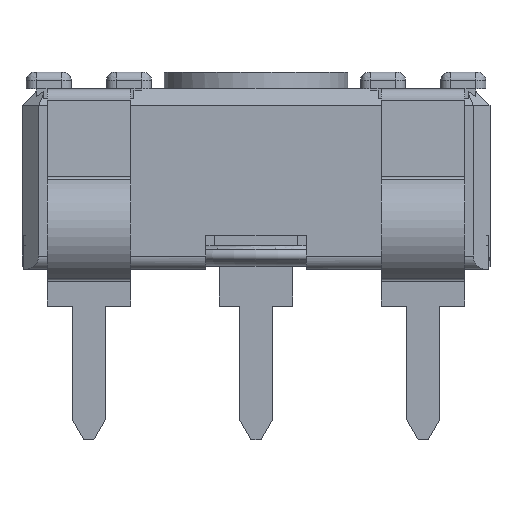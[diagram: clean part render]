
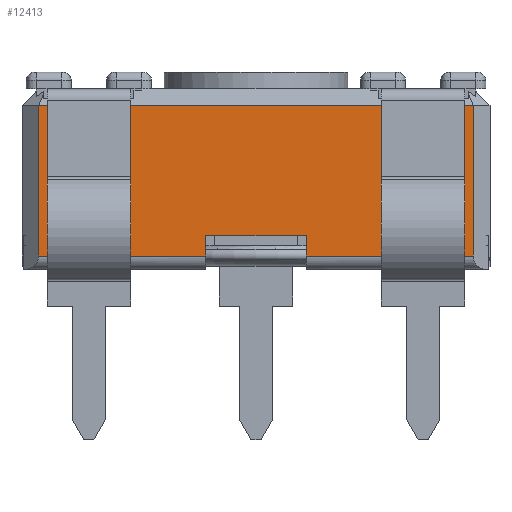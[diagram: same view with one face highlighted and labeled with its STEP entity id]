
A CAD part, front view. The second image highlights one B-rep face of the part: STEP entity #12413.
In plain terms, the highlighted planar face has unit normal (0, -1, 0).
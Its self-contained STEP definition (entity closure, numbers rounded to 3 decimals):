
#1236=FACE_OUTER_BOUND('',#1861,.T.);
#1861=EDGE_LOOP('',(#10511,#10512,#10513,#10514,#10515,#10516,#10517,#10518));
#2796=LINE('',#19491,#4087);
#2804=LINE('',#19508,#4095);
#2821=LINE('',#19551,#4112);
#2822=LINE('',#19556,#4113);
#3098=LINE('',#20345,#4389);
#3110=LINE('',#20367,#4401);
#3132=LINE('',#20418,#4423);
#3136=LINE('',#20424,#4427);
#4087=VECTOR('',#15724,10.);
#4095=VECTOR('',#15736,10.);
#4112=VECTOR('',#15773,10.);
#4113=VECTOR('',#15780,10.);
#4389=VECTOR('',#16506,10.);
#4401=VECTOR('',#16528,10.);
#4423=VECTOR('',#16574,10.);
#4427=VECTOR('',#16582,10.);
#5311=VERTEX_POINT('',#19488);
#5312=VERTEX_POINT('',#19490);
#5319=VERTEX_POINT('',#19506);
#5334=VERTEX_POINT('',#19548);
#5335=VERTEX_POINT('',#19550);
#5336=VERTEX_POINT('',#19554);
#5592=VERTEX_POINT('',#20344);
#5604=VERTEX_POINT('',#20416);
#6838=EDGE_CURVE('',#5311,#5312,#2796,.T.);
#6847=EDGE_CURVE('',#5311,#5319,#2804,.T.);
#6868=EDGE_CURVE('',#5334,#5335,#2821,.T.);
#6871=EDGE_CURVE('',#5335,#5336,#2822,.T.);
#7255=EDGE_CURVE('',#5592,#5312,#3098,.T.);
#7267=EDGE_CURVE('',#5334,#5592,#3110,.T.);
#7290=EDGE_CURVE('',#5604,#5319,#3132,.T.);
#7294=EDGE_CURVE('',#5336,#5604,#3136,.T.);
#10511=ORIENTED_EDGE('',*,*,#6838,.F.);
#10512=ORIENTED_EDGE('',*,*,#6847,.T.);
#10513=ORIENTED_EDGE('',*,*,#7290,.F.);
#10514=ORIENTED_EDGE('',*,*,#7294,.F.);
#10515=ORIENTED_EDGE('',*,*,#6871,.F.);
#10516=ORIENTED_EDGE('',*,*,#6868,.F.);
#10517=ORIENTED_EDGE('',*,*,#7267,.T.);
#10518=ORIENTED_EDGE('',*,*,#7255,.T.);
#11274=PLANE('',#13432);
#12413=ADVANCED_FACE('',(#1236),#11274,.T.);
#13432=AXIS2_PLACEMENT_3D('',#20423,#16580,#16581);
#15724=DIRECTION('',(-1.,0.,0.));
#15736=DIRECTION('',(0.,0.,1.));
#15773=DIRECTION('',(0.,0.,-1.));
#15780=DIRECTION('',(-1.,0.,0.));
#16506=DIRECTION('',(0.,0.,-1.));
#16528=DIRECTION('',(1.,0.,0.));
#16574=DIRECTION('',(1.,0.,0.));
#16580=DIRECTION('center_axis',(0.,-1.,0.));
#16581=DIRECTION('ref_axis',(1.,0.,0.));
#16582=DIRECTION('',(0.,0.,1.));
#19488=CARTESIAN_POINT('',(-3.655,0.3,-0.6));
#19490=CARTESIAN_POINT('',(-8.655,0.3,-0.6));
#19491=CARTESIAN_POINT('',(-11.325,0.3,-0.6));
#19506=CARTESIAN_POINT('',(-3.655,0.3,3.9));
#19508=CARTESIAN_POINT('',(-3.655,0.3,0.));
#19548=CARTESIAN_POINT('',(-11.655,0.3,0.));
#19550=CARTESIAN_POINT('',(-11.655,0.3,-0.6));
#19551=CARTESIAN_POINT('',(-11.655,0.3,-0.3));
#19554=CARTESIAN_POINT('',(-16.655,0.3,-0.6));
#19556=CARTESIAN_POINT('',(-15.484,0.3,-0.6));
#20344=CARTESIAN_POINT('',(-8.655,0.3,0.));
#20345=CARTESIAN_POINT('',(-8.655,0.3,0.));
#20367=CARTESIAN_POINT('',(-16.655,0.3,0.));
#20416=CARTESIAN_POINT('',(-16.655,0.3,3.9));
#20418=CARTESIAN_POINT('',(-13.405,0.3,3.9));
#20423=CARTESIAN_POINT('Origin',(-16.655,0.3,0.));
#20424=CARTESIAN_POINT('',(-16.655,0.3,0.));
